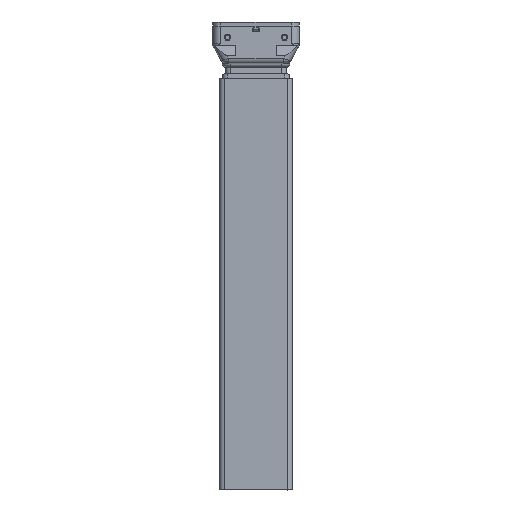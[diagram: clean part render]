
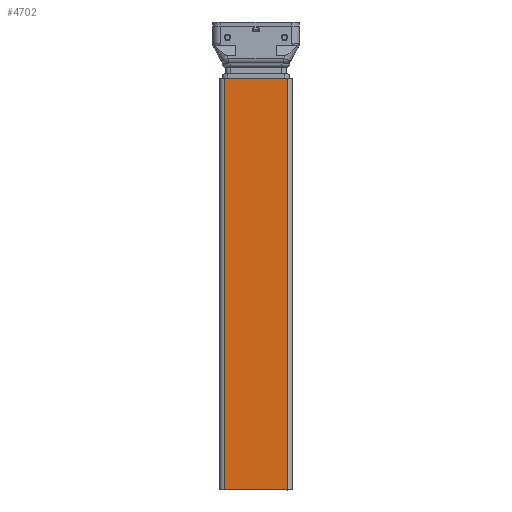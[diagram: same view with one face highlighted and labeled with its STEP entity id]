
A CAD part, top view. The second image highlights one B-rep face of the part: STEP entity #4702.
In plain terms, the highlighted planar face has unit normal (0, 0, 1).
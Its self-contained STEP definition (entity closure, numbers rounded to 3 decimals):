
#399=DIRECTION('',(0.,1.,0.));
#400=VECTOR('',#399,456.);
#401=CARTESIAN_POINT('',(35.,0.,25.));
#402=LINE('',#401,#400);
#507=DIRECTION('',(-1.,0.,0.));
#508=VECTOR('',#507,70.);
#509=CARTESIAN_POINT('',(35.,456.,25.));
#510=LINE('',#509,#508);
#511=DIRECTION('',(1.,0.,0.));
#512=VECTOR('',#511,70.);
#513=CARTESIAN_POINT('',(-35.,0.,25.));
#514=LINE('',#513,#512);
#515=DIRECTION('',(0.,1.,0.));
#516=VECTOR('',#515,456.);
#517=CARTESIAN_POINT('',(-35.,0.,25.));
#518=LINE('',#517,#516);
#3048=CARTESIAN_POINT('',(-35.,0.,25.));
#3049=VERTEX_POINT('',#3048);
#3050=CARTESIAN_POINT('',(35.,0.,25.));
#3051=VERTEX_POINT('',#3050);
#3862=CARTESIAN_POINT('',(-35.,456.,25.));
#3863=VERTEX_POINT('',#3862);
#3864=CARTESIAN_POINT('',(35.,456.,25.));
#3865=VERTEX_POINT('',#3864);
#4691=CARTESIAN_POINT('',(35.,488.,25.));
#4692=DIRECTION('',(0.,0.,1.));
#4693=DIRECTION('',(-1.,0.,0.));
#4694=AXIS2_PLACEMENT_3D('',#4691,#4692,#4693);
#4695=PLANE('',#4694);
#4696=ORIENTED_EDGE('',*,*,#3902,.F.);
#4697=ORIENTED_EDGE('',*,*,#4478,.F.);
#4698=ORIENTED_EDGE('',*,*,#4510,.F.);
#4699=ORIENTED_EDGE('',*,*,#4672,.T.);
#4700=EDGE_LOOP('',(#4696,#4697,#4698,#4699));
#4701=FACE_OUTER_BOUND('',#4700,.F.);
#3902=EDGE_CURVE('',#3865,#3863,#510,.T.);
#4478=EDGE_CURVE('',#3051,#3865,#402,.T.);
#4510=EDGE_CURVE('',#3049,#3051,#514,.T.);
#4672=EDGE_CURVE('',#3049,#3863,#518,.T.);
#4702=ADVANCED_FACE('',(#4701),#4695,.T.);
